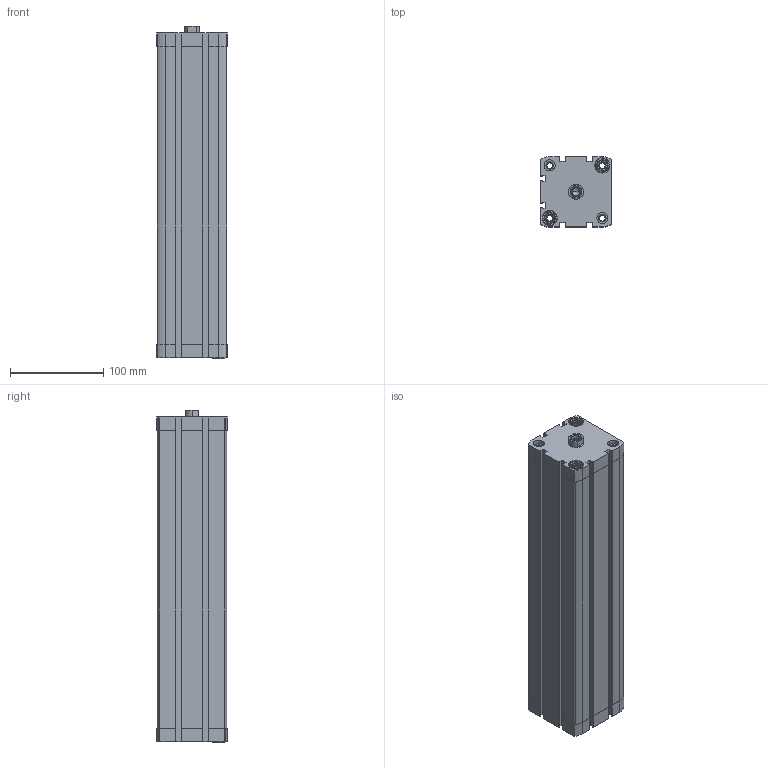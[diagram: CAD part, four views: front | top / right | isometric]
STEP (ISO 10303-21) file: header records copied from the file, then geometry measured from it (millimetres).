
FILE_DESCRIPTION (( 'STEP AP203' ), '1' );
FILE_NAME ('CCN63-300F.STEP', '2017-04-05T16:33:53', ( '' ), ( '' ), 'SwSTEP 2.0', 'SolidWorks 2016', '' );
FILE_SCHEMA (( 'CONFIG_CONTROL_DESIGN' ));
Length unit declared in the file: millimetre
Products named in the file (3): CCN-300---(Z); CCN-300_(KS); CCN63-300F
Assembly tree (2 placements, depth 2):
  CCN63-300F
    CCN-300---(Z)
    CCN-300_(KS)
Bounding box: 75.5 x 75.5 x 356.5 mm (x, y, z)
Volume: 956330.1 mm3; surface area: 267221.7 mm2
Topology: 2 solids, 2 shells, 471 faces, 1272 edges, 835 vertices
Faces by surface type: plane 219, cylinder 210, cone 42
Entity records: 15289 total; most frequent: CARTESIAN_POINT 2875, DIRECTION 2592, ORIENTED_EDGE 2540, EDGE_CURVE 1270, AXIS2_PLACEMENT_3D 944, VERTEX_POINT 835, LINE 704, VECTOR 704
